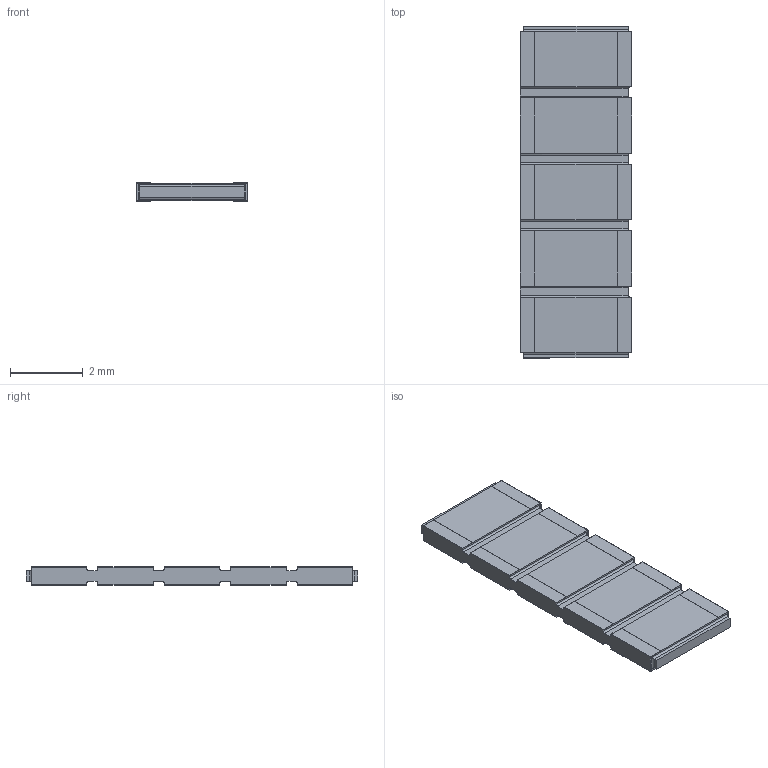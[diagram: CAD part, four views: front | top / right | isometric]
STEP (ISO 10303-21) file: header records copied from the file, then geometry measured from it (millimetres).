
FILE_DESCRIPTION(/* description */ (''),/* implementation_level */ '2;1');
FILE_NAME(/* name */ 'S:\DOCUMENT\AUTOCAD\3D_Modèles\10_3D-pour-VISHAY-COM\PRA\PRA182\PRA182-C2_à_C8\10_IGES\PRA182C5_B-or-N-or-G.stp',/* time_stamp */ '2017-12-19T09:06:35+01:00',/* author */ ('dparmentier'),/* organization */ ('unknown'),/* preprocessor_version */ 'ST-DEVELOPER v17',/* originating_system */ 'Autodesk Inventor 2018',/* authorisation */ '');
FILE_SCHEMA (('AUTOMOTIVE_DESIGN { 1 0 10303 214 3 1 1 }'));
Length unit declared in the file: millimetre
Products named in the file (1): PRA182C5_B-or-N-or-G
Bounding box: 3.06 x 9.12 x 0.5 mm (x, y, z)
Volume: 12.9 mm3; surface area: 110.6 mm2
Topology: 7 solids, 7 shells, 204 faces, 540 edges, 352 vertices
Faces by surface type: plane 156, cylinder 48
Entity records: 6271 total; most frequent: CARTESIAN_POINT 1097, ORIENTED_EDGE 1080, DIRECTION 1022, EDGE_CURVE 540, LINE 468, VECTOR 468, VERTEX_POINT 352, AXIS2_PLACEMENT_3D 277
